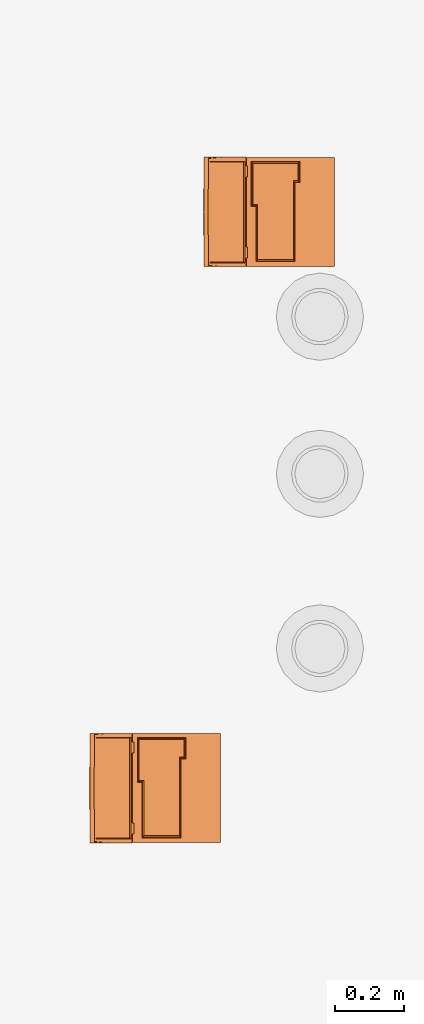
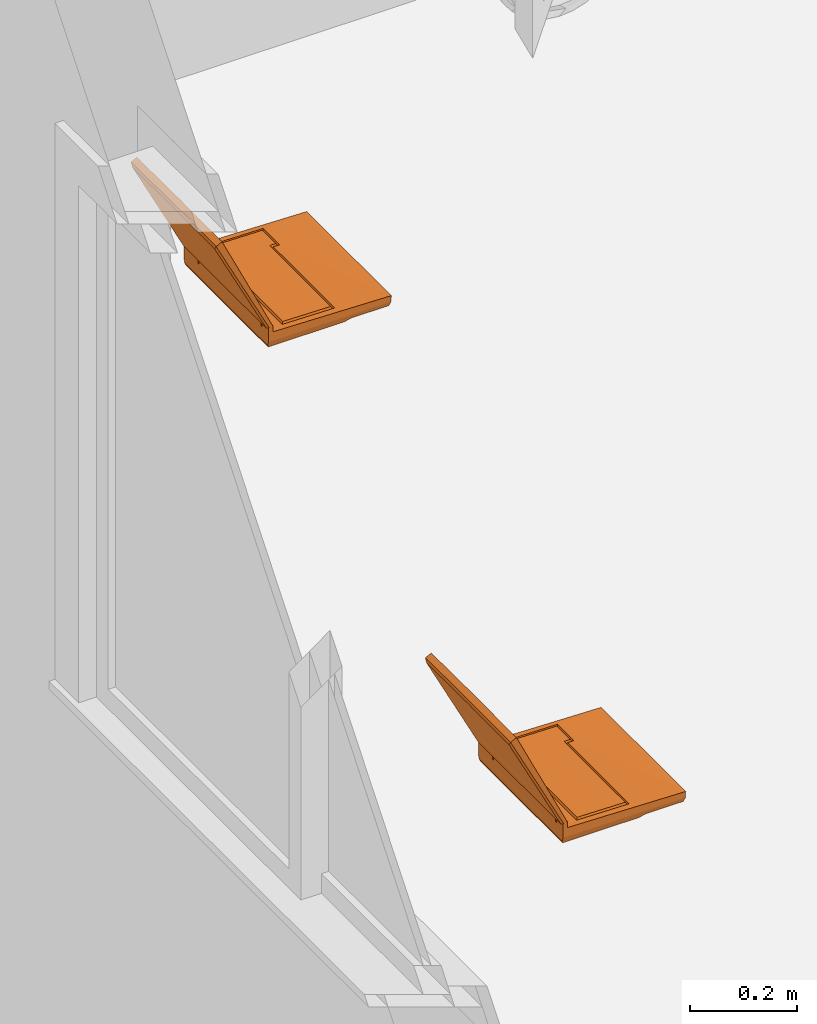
# One storey, part 8 of 8: 2 proxies.
"""IFC2X3 building model written with IfcOpenShell, lengths in feet."""

from ifc_helpers import new_model, entity, si_unit, converted_unit, derived_unit, direction, frame, origin, place, context, subcontext, project, spatial, face_set, surface_model, source, transform, mapped, type_object, type_shapes, element, save


model = new_model("IFC2X3")

# Units and contexts
model_context = context("Model", 3, precision=0.0001, world=origin(), true_north=direction((6.12303176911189e-17, 1.0)))
body_context = subcontext(model_context, "Body", "Model", "MODEL_VIEW")
ifc_project = project(units=[converted_unit("LENGTHUNIT", "FOOT", entity("IfcRatioMeasure", 0.3048), si_unit("LENGTHUNIT", "METRE"), dimensions=[1, 0, 0, 0, 0, 0, 0]), converted_unit("AREAUNIT", "SQUARE FOOT", entity("IfcRatioMeasure", 0.09290304), si_unit("AREAUNIT", "SQUARE_METRE"), dimensions=[2, 0, 0, 0, 0, 0, 0]), converted_unit("VOLUMEUNIT", "CUBIC FOOT", entity("IfcRatioMeasure", 0.028316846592), si_unit("VOLUMEUNIT", "CUBIC_METRE"), dimensions=[3, 0, 0, 0, 0, 0, 0]), converted_unit("PLANEANGLEUNIT", "DEGREE", entity("IfcRatioMeasure", 0.0174532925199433), si_unit("PLANEANGLEUNIT", "RADIAN"), dimensions=[0, 0, 0, 0, 0, 0, 0]), si_unit("MASSUNIT", "GRAM", prefix="KILO"), derived_unit("MASSDENSITYUNIT", [(si_unit("MASSUNIT", "GRAM", prefix="KILO"), 1), (si_unit("LENGTHUNIT", "METRE"), -3)]), si_unit("TIMEUNIT", "SECOND"), si_unit("FREQUENCYUNIT", "HERTZ"), si_unit("THERMODYNAMICTEMPERATUREUNIT", "DEGREE_CELSIUS"), derived_unit("THERMALTRANSMITTANCEUNIT", [(si_unit("MASSUNIT", "GRAM", prefix="KILO"), 1), (si_unit("THERMODYNAMICTEMPERATUREUNIT", "KELVIN"), -1), (si_unit("TIMEUNIT", "SECOND"), -3)]), derived_unit("VOLUMETRICFLOWRATEUNIT", [(si_unit("LENGTHUNIT", "METRE"), 3), (si_unit("TIMEUNIT", "SECOND"), -1)]), si_unit("ELECTRICCURRENTUNIT", "AMPERE"), si_unit("ELECTRICVOLTAGEUNIT", "VOLT"), si_unit("POWERUNIT", "WATT"), si_unit("FORCEUNIT", "NEWTON"), si_unit("ILLUMINANCEUNIT", "LUX"), si_unit("LUMINOUSFLUXUNIT", "LUMEN"), si_unit("LUMINOUSINTENSITYUNIT", "CANDELA"), derived_unit("USERDEFINED", [(si_unit("MASSUNIT", "GRAM", prefix="KILO"), -1), (si_unit("LENGTHUNIT", "METRE"), -2), (si_unit("TIMEUNIT", "SECOND"), 3), (si_unit("LUMINOUSFLUXUNIT", "LUMEN"), 1)]), derived_unit("LINEARVELOCITYUNIT", [(si_unit("LENGTHUNIT", "METRE"), 1), (si_unit("TIMEUNIT", "SECOND"), -1)]), si_unit("PRESSUREUNIT", "PASCAL"), derived_unit("USERDEFINED", [(si_unit("LENGTHUNIT", "METRE"), -2), (si_unit("MASSUNIT", "GRAM", prefix="KILO"), 1), (si_unit("TIMEUNIT", "SECOND"), -2)])], contexts=[model_context])

# Site, building, storey
site_placement = place(None, origin())
site = spatial("IfcSite", under=ifc_project, at=site_placement, Name="表面", CompositionType="ELEMENT")
building_placement = place(site_placement, origin())
building = spatial("IfcBuilding", under=site, at=building_placement, CompositionType="ELEMENT")
storey_placement = place(building_placement, frame((0.0, 0.0, 20.0)))
storey = spatial("IfcBuildingStorey", under=building, at=storey_placement, Name="Sun Deck", CompositionType="ELEMENT", Elevation=19.9999999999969)

# Proxies
building_element_proxy_type = type_object("IfcBuildingElementProxyType", Name="RPC Notebook Computer", PredefinedType="NOTDEFINED")
shared_shape = source(origin(), body_context, "Body", "SurfaceModel", [
    surface_model("IfcFaceBasedSurfaceModel", [(0.279632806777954, -0.219291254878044, 0.1043581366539), (-0.519782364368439, -0.54980731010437, 0.0925914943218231), (0.519790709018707, -0.54980731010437, 0.0925914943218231), (-0.3338243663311, 0.320641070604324, 0.11526644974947), (-0.3338243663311, 0.288441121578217, 0.11526644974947), (-0.3338243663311, 0.320641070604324, 0.159091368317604), (-0.3338243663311, 0.304449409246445, 0.164916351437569), (-0.3338243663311, 0.288441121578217, 0.158083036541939), (-0.439049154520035, 0.288441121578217, 0.11526644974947), (-0.439049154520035, 0.320632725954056, 0.11526644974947), (-0.439049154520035, 0.288441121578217, 0.158083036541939), (-0.439049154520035, 0.304449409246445, 0.164916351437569), (-0.439049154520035, 0.320641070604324, 0.159091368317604), (0.279632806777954, -0.174424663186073, 0.104874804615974), (-0.47533243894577, -0.174424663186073, 0.104874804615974), (-0.47533243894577, 0.19904962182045, 0.112174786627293), (-0.519782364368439, 0.288441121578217, 0.11526644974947), (0.482024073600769, 0.243891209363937, 0.112508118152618), (0.0521165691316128, 0.243891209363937, 0.112508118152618), (0.3338243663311, 0.288441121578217, 0.11526644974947), (0.482024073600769, -0.219291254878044, 0.1043581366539), (0.3338243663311, 0.320641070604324, 0.11526644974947), (0.3338243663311, 0.320641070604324, 0.159091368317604), (0.3338243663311, 0.304449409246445, 0.164916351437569), (0.3338243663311, 0.288441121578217, 0.158083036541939), (0.439057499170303, 0.288441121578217, 0.11526644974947), (0.439057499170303, 0.320641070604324, 0.11526644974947), (0.439057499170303, 0.288441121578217, 0.158083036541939), (0.439057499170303, 0.304449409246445, 0.164916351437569), (0.439057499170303, 0.320641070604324, 0.159091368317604), (0.519790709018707, 0.288441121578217, 0.11526644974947), (0.0521165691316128, 0.19904962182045, 0.112174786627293), (-0.468199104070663, 0.191907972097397, 0.0964248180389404), (0.0624498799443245, 0.23810787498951, 0.0967581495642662), (0.0624498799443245, 0.191907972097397, 0.0964248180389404), (-0.50946569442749, -0.273391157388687, 0.0159749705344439), (0.50946569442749, -0.273391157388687, 0.0159749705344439), (-0.50946569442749, -0.5382239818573, 0.0156999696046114), (0.509474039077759, -0.5382239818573, 0.0156999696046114), (0.503515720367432, -0.226391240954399, 0.0), (-0.503515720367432, -0.226391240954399, 0.0), (-0.503515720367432, 0.314557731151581, 0.0), (0.503515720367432, 0.314557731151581, 0.0), (-0.50946569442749, 0.320641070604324, 0.0159749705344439), (-0.519782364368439, 0.320641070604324, 0.0488999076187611), (-0.519782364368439, 0.320641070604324, 0.159091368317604), (0.50946569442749, 0.320641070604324, 0.0159749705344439), (0.519790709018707, 0.320641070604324, 0.0488999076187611), (0.519790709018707, 0.320641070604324, 0.159091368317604), (-0.519782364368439, 0.304449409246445, 0.164916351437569), (-0.519782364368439, 0.288441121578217, 0.158083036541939), (0.519790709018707, 0.304449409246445, 0.164916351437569), (0.519790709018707, 0.288441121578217, 0.158083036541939), (0.520407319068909, -0.547273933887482, 0.0488999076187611), (-0.520407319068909, -0.547273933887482, 0.0488999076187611), (-0.468199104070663, -0.168274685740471, 0.0894164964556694), (0.474890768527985, 0.23810787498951, 0.0967581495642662), (0.286766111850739, -0.168274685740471, 0.0894164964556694), (0.286766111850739, -0.213141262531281, 0.0889081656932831), (0.474890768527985, -0.213141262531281, 0.0889081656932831), (0.0717915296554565, 0.181941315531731, 0.115199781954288), (-0.453982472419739, 0.181941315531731, 0.115199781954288), (-0.453982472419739, -0.158933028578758, 0.108683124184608), (0.298316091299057, -0.158933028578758, 0.108683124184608), (0.298316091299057, -0.203799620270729, 0.108174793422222), (0.463340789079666, -0.203799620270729, 0.108174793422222), (0.463340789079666, 0.228141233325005, 0.115541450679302), (0.0717915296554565, 0.228141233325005, 0.115541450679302), (0.0, 0.316400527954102, 0.184528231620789), (0.0, 0.643048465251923, 0.855077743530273), (-0.47799077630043, 0.643048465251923, 0.855077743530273), (-0.47799077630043, 0.316384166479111, 0.184531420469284), (0.476082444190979, 0.643048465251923, 0.855077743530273), (0.476082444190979, 0.316384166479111, 0.184531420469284), (0.0, 0.635649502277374, 0.863307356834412), (-0.485257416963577, 0.635649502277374, 0.863307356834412), (-0.485257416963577, 0.303919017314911, 0.185171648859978), (0.0, 0.303933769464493, 0.185160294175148), (0.483349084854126, 0.635649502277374, 0.863307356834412), (0.483349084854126, 0.303919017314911, 0.185171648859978), (0.0, 0.655732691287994, 0.927844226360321), (0.0, 0.697361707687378, 0.906475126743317), (-0.523107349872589, 0.694120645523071, 0.897749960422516), (-0.523107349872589, 0.652483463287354, 0.919120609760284), (0.523107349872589, 0.694120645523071, 0.897749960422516), (0.523107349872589, 0.652483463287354, 0.919120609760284), (0.0, 0.698765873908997, 0.878934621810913), (-0.505307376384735, 0.695516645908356, 0.870211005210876), (0.0, 0.328225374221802, 0.147270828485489), (-0.3338243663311, 0.328225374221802, 0.147270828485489), (-0.438757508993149, 0.328225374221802, 0.147270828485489), (-0.3338243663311, 0.328890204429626, 0.125578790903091), (-0.3338243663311, 0.316399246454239, 0.113770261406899), (-0.439049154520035, 0.316361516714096, 0.113794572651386), (-0.439049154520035, 0.328890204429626, 0.125578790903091), (-0.505307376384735, 0.328225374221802, 0.147270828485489), (-0.523107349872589, 0.316004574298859, 0.153491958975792), (0.505307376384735, 0.695516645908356, 0.870211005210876), (0.3338243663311, 0.328225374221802, 0.147270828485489), (0.438757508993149, 0.328225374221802, 0.147270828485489), (0.3338243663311, 0.328890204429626, 0.125578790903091), (0.439049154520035, 0.316361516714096, 0.113794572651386), (0.3338243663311, 0.316399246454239, 0.113770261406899), (0.439049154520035, 0.328890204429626, 0.125578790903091), (0.505307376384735, 0.328225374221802, 0.147270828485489), (0.523107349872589, 0.316004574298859, 0.153491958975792), (-0.3338243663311, 0.277312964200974, 0.133677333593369), (-0.439049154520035, 0.277312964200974, 0.133677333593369), (-0.3338243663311, 0.293896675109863, 0.164750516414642), (0.0, 0.293880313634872, 0.164753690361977), (0.439049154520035, 0.277312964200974, 0.133677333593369), (0.3338243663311, 0.277312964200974, 0.133677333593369), (0.3338243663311, 0.293896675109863, 0.164750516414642), (-0.438757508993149, 0.293896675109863, 0.164750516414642), (-0.523107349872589, 0.293873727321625, 0.16476346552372), (0.523107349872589, 0.293873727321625, 0.16476346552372), (0.438757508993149, 0.293896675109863, 0.164750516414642), (-0.514907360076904, 0.649352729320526, 0.912360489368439), (-0.523107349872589, 0.515384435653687, 0.630715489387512), (0.0, 0.652593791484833, 0.92108565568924), (-0.510174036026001, 0.655476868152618, 0.902332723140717), (0.0, 0.658716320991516, 0.911049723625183), (0.514907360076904, 0.649352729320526, 0.912360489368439), (0.523107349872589, 0.515384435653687, 0.630715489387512), (0.510174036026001, 0.655476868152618, 0.902332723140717)], [face_set([[[0, 1, 2]], [[3, 4, 5]], [[5, 4, 6]], [[6, 4, 7]], [[8, 4, 9]], [[9, 4, 3]], [[10, 8, 11]], [[11, 8, 12]], [[12, 8, 9]], [[13, 14, 0]], [[14, 1, 0]], [[15, 4, 8]], [[1, 14, 16]], [[15, 8, 16]], [[17, 4, 18]], [[19, 4, 17]], [[0, 2, 20]], [[21, 22, 19]], [[22, 23, 19]], [[23, 24, 19]], [[25, 26, 19]], [[26, 21, 19]], [[27, 28, 25]], [[28, 29, 25]], [[29, 26, 25]], [[20, 30, 17]], [[17, 25, 19]], [[2, 30, 20]], [[17, 30, 25]], [[18, 4, 15]], [[15, 31, 18]], [[32, 33, 34]], [[35, 36, 37]], [[37, 36, 38]], [[39, 36, 40]], [[40, 36, 35]], [[41, 42, 40]], [[40, 42, 39]], [[43, 9, 3]], [[9, 43, 44]], [[44, 45, 12]], [[12, 9, 44]], [[43, 46, 41]], [[41, 46, 42]], [[3, 21, 46]], [[3, 46, 43]], [[5, 22, 21]], [[5, 21, 3]], [[46, 21, 26]], [[26, 47, 46]], [[47, 29, 48]], [[29, 47, 26]], [[49, 50, 10]], [[10, 11, 49]], [[7, 24, 23]], [[7, 23, 6]], [[51, 27, 52]], [[27, 51, 28]], [[45, 49, 11]], [[11, 12, 45]], [[6, 23, 22]], [[6, 22, 5]], [[48, 28, 51]], [[28, 48, 29]], [[2, 1, 53]], [[53, 1, 54]], [[53, 54, 38]], [[38, 54, 37]], [[53, 38, 36]], [[47, 51, 30]], [[51, 47, 48]], [[52, 30, 51]], [[36, 42, 46]], [[2, 47, 30]], [[53, 46, 47]], [[42, 36, 39]], [[47, 2, 53]], [[46, 53, 36]], [[50, 16, 8]], [[8, 10, 50]], [[4, 19, 24]], [[4, 24, 7]], [[52, 25, 30]], [[25, 52, 27]], [[54, 35, 37]], [[44, 16, 49]], [[49, 45, 44]], [[50, 49, 16]], [[35, 43, 41]], [[1, 16, 44]], [[54, 44, 43]], [[41, 40, 35]], [[44, 54, 1]], [[43, 35, 54]], [[55, 32, 15]], [[17, 18, 33]], [[33, 56, 17]], [[14, 13, 57]], [[57, 55, 14]], [[13, 0, 58]], [[58, 57, 13]], [[0, 20, 59]], [[59, 58, 0]], [[20, 17, 56]], [[56, 59, 20]], [[31, 15, 32]], [[32, 34, 31]], [[33, 18, 31]], [[31, 34, 33]], [[56, 34, 33]], [[14, 15, 16]], [[15, 14, 55]], [[60, 61, 62]], [[60, 62, 63]], [[63, 64, 65]], [[66, 63, 65]], [[32, 55, 62]], [[62, 61, 32]], [[34, 32, 61]], [[61, 60, 34]], [[55, 57, 63]], [[63, 62, 55]], [[57, 58, 64]], [[64, 63, 57]], [[58, 59, 65]], [[65, 64, 58]], [[59, 56, 66]], [[66, 65, 59]], [[66, 60, 63]], [[67, 66, 56]], [[56, 33, 67]], [[34, 60, 67]], [[67, 33, 34]], [[66, 67, 60]], [[68, 69, 70]], [[68, 70, 71]], [[68, 72, 69]], [[68, 73, 72]], [[74, 75, 70]], [[70, 69, 74]], [[76, 77, 68]], [[68, 71, 76]], [[75, 76, 71]], [[71, 70, 75]], [[74, 72, 78]], [[72, 74, 69]], [[79, 68, 77]], [[68, 79, 73]], [[78, 73, 79]], [[73, 78, 72]], [[80, 81, 82]], [[80, 82, 83]], [[80, 84, 81]], [[80, 85, 84]], [[81, 86, 87]], [[81, 87, 82]], [[86, 88, 89]], [[86, 89, 87]], [[87, 89, 90]], [[91, 92, 93]], [[91, 93, 94]], [[87, 90, 95]], [[96, 87, 95]], [[89, 94, 90]], [[89, 91, 94]], [[96, 82, 87]], [[81, 97, 86]], [[81, 84, 97]], [[86, 98, 88]], [[86, 97, 98]], [[97, 99, 98]], [[100, 101, 102]], [[100, 103, 101]], [[99, 97, 104]], [[105, 104, 97]], [[98, 99, 103]], [[98, 103, 100]], [[105, 97, 84]], [[92, 106, 107]], [[92, 107, 93]], [[91, 89, 92]], [[92, 89, 106]], [[106, 89, 108]], [[89, 88, 108]], [[108, 88, 109]], [[102, 110, 111]], [[102, 101, 110]], [[100, 102, 98]], [[102, 111, 98]], [[111, 112, 98]], [[98, 112, 88]], [[112, 109, 88]], [[90, 113, 114]], [[90, 114, 96]], [[94, 93, 90]], [[90, 93, 113]], [[113, 93, 107]], [[90, 96, 95]], [[99, 115, 116]], [[99, 105, 115]], [[103, 99, 101]], [[99, 116, 101]], [[116, 110, 101]], [[99, 104, 105]], [[106, 108, 113]], [[106, 113, 107]], [[80, 83, 117]], [[108, 109, 77]], [[77, 76, 108]], [[113, 108, 76]], [[118, 114, 76]], [[113, 76, 114]], [[117, 119, 80]], [[76, 75, 118]], [[117, 118, 120]], [[74, 121, 120]], [[74, 120, 75]], [[117, 120, 121]], [[117, 121, 119]], [[118, 75, 120]], [[83, 118, 117]], [[111, 116, 112]], [[111, 110, 116]], [[80, 122, 85]], [[112, 77, 109]], [[77, 112, 79]], [[116, 79, 112]], [[123, 79, 115]], [[115, 79, 116]], [[122, 80, 119]], [[79, 123, 78]], [[122, 124, 123]], [[74, 124, 121]], [[74, 78, 124]], [[122, 121, 124]], [[122, 119, 121]], [[123, 124, 78]], [[85, 122, 123]], [[115, 84, 123]], [[115, 105, 84]], [[123, 84, 85]], [[114, 118, 82]], [[114, 82, 96]], [[118, 83, 82]]])]),
])
type_shapes(building_element_proxy_type, [shared_shape])
for number, where, z_axis, x_axis, name in (
    (1, (-10.6963608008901, 4.43239369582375, 4.08333333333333), (0.0, 0.0, 1.0), (0.0, 1.0, 0.0), "RPC Notebook Computer:RPC Notebook Computer"),
    (2, (-11.7845309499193, -1.06760630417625, 4.08333333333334), (0.0, 0.0, 1.0), (0.0, 1.0, 0.0), "RPC Notebook Computer:RPC Notebook Computer"),
):
    element("IfcBuildingElementProxy", number, at=place(storey_placement, frame(where, z_axis=z_axis, x_axis=x_axis)), inside=storey, type_object=building_element_proxy_type, Name=name, ObjectType="RPC Notebook Computer", context=body_context, shape_type="MappedRepresentation", body=[
        mapped(shared_shape, transform((0.0, 0.0, 0.0), scale=1.0)),
    ])

save(model, "model.ifc")
